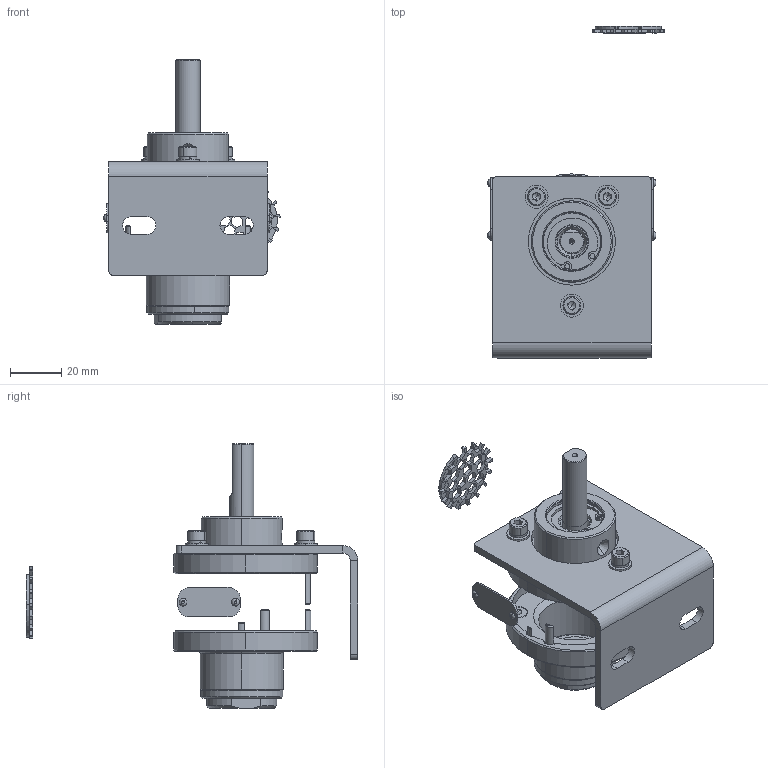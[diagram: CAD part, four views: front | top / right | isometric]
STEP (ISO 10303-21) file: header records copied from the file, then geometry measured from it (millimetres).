
FILE_DESCRIPTION (( 'STEP AP214' ), '1' );
FILE_NAME ('1VMS-SGI (22-04-26).STEP', '2026-04-22T04:52:30', ( '' ), ( '' ), 'SwSTEP 2.0', 'SolidWorks 2017', '' );
FILE_SCHEMA (( 'AUTOMOTIVE_DESIGN' ));
Length unit declared in the file: millimetre
Products named in the file (2): 1VMS-SGI (22-04-26)
Bounding box: 68.79 x 129.63 x 103.42 mm (x, y, z)
Volume: 55383.6 mm3; surface area: 42555.9 mm2
Topology: 32 solids, 32 shells, 805 faces, 2009 edges, 1267 vertices
Faces by surface type: plane 379, cylinder 251, cone 121, torus 54
Entity records: 41554 total; most frequent: CARTESIAN_POINT 7007, DIRECTION 5212, ORIENTED_EDGE 4832, EDGE_CURVE 2416, AXIS2_PLACEMENT_3D 1981, VERTEX_POINT 1534, LINE 1250, VECTOR 1250
